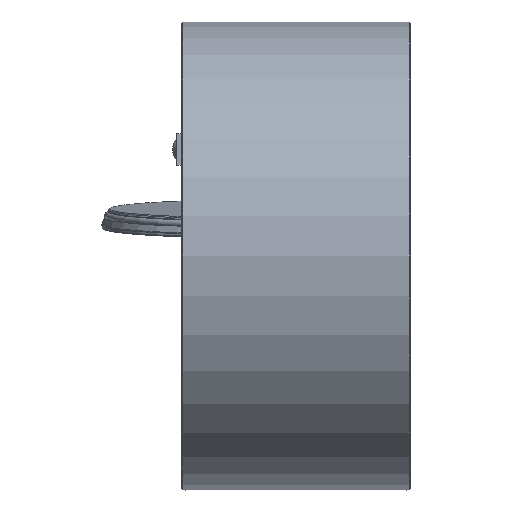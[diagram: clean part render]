
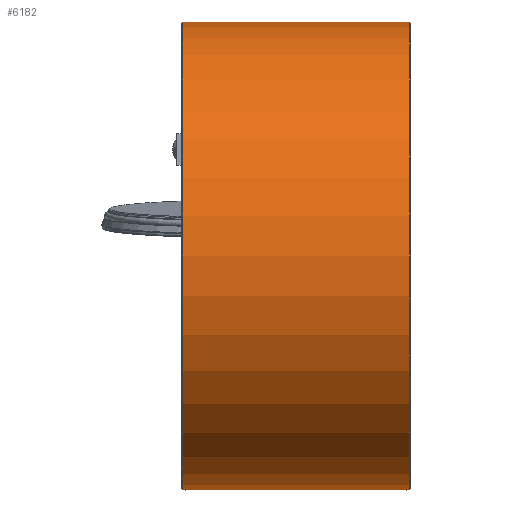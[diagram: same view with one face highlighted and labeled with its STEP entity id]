
A CAD part, left-side view. The second image highlights one B-rep face of the part: STEP entity #6182.
In plain terms, the highlighted cylindrical face has radius 112.5 mm (diameter 225 mm), a full revolution.
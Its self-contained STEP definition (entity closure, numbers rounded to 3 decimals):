
#4961=CYLINDRICAL_SURFACE('',#23359,112.5);
#6182=ADVANCED_FACE('',(#8863,#8864,#8865),#4961,.T.);
#7894=CIRCLE('',#23312,112.5);
#7910=CIRCLE('',#23330,112.5);
#7927=CIRCLE('',#23351,112.5);
#7928=CIRCLE('',#23352,112.5);
#7929=CIRCLE('',#23353,112.5);
#7930=CIRCLE('',#23354,112.5);
#7931=CIRCLE('',#23355,112.5);
#7932=CIRCLE('',#23356,112.5);
#7933=CIRCLE('',#23357,112.5);
#7934=CIRCLE('',#23358,112.5);
#8863=FACE_BOUND('',#10198,.T.);
#8864=FACE_BOUND('',#10199,.T.);
#8865=FACE_BOUND('',#10200,.T.);
#10198=EDGE_LOOP('',(#12775,#12776,#12777,#12778,#12779,#12780,#12781,#12782));
#10199=EDGE_LOOP('',(#12783,#12784,#12785,#12786,#12787,#12788,#12789,#12790));
#10200=EDGE_LOOP('',(#12791,#12792,#12793,#12794));
#12775=ORIENTED_EDGE('',*,*,#18592,.T.);
#12776=ORIENTED_EDGE('',*,*,#18549,.F.);
#12777=ORIENTED_EDGE('',*,*,#18593,.F.);
#12778=ORIENTED_EDGE('',*,*,#18594,.F.);
#12779=ORIENTED_EDGE('',*,*,#18595,.T.);
#12780=ORIENTED_EDGE('',*,*,#18596,.F.);
#12781=ORIENTED_EDGE('',*,*,#18597,.F.);
#12782=ORIENTED_EDGE('',*,*,#18598,.F.);
#12783=ORIENTED_EDGE('',*,*,#18599,.F.);
#12784=ORIENTED_EDGE('',*,*,#18569,.T.);
#12785=ORIENTED_EDGE('',*,*,#18600,.T.);
#12786=ORIENTED_EDGE('',*,*,#18601,.F.);
#12787=ORIENTED_EDGE('',*,*,#18602,.T.);
#12788=ORIENTED_EDGE('',*,*,#18603,.T.);
#12789=ORIENTED_EDGE('',*,*,#18604,.F.);
#12790=ORIENTED_EDGE('',*,*,#18605,.T.);
#12791=ORIENTED_EDGE('',*,*,#18606,.F.);
#12792=ORIENTED_EDGE('',*,*,#18607,.F.);
#12793=ORIENTED_EDGE('',*,*,#18608,.F.);
#12794=ORIENTED_EDGE('',*,*,#18609,.F.);
#16608=VERTEX_POINT('',#32112);
#16609=VERTEX_POINT('',#32117);
#16627=VERTEX_POINT('',#32158);
#16629=VERTEX_POINT('',#32165);
#16650=VERTEX_POINT('',#32220);
#16651=VERTEX_POINT('',#32222);
#16652=VERTEX_POINT('',#32224);
#16653=VERTEX_POINT('',#32226);
#16654=VERTEX_POINT('',#32228);
#16655=VERTEX_POINT('',#32230);
#16656=VERTEX_POINT('',#32233);
#16657=VERTEX_POINT('',#32235);
#16658=VERTEX_POINT('',#32237);
#16659=VERTEX_POINT('',#32239);
#16660=VERTEX_POINT('',#32241);
#16661=VERTEX_POINT('',#32243);
#16662=VERTEX_POINT('',#32246);
#16663=VERTEX_POINT('',#32247);
#16664=VERTEX_POINT('',#32249);
#16665=VERTEX_POINT('',#32251);
#18549=EDGE_CURVE('',#16609,#16608,#7894,.T.);
#18569=EDGE_CURVE('',#16627,#16629,#7910,.T.);
#18592=EDGE_CURVE('',#16650,#16608,#20638,.T.);
#18593=EDGE_CURVE('',#16651,#16609,#20639,.T.);
#18594=EDGE_CURVE('',#16652,#16651,#7927,.T.);
#18595=EDGE_CURVE('',#16652,#16653,#20640,.T.);
#18596=EDGE_CURVE('',#16654,#16653,#7928,.T.);
#18597=EDGE_CURVE('',#16655,#16654,#20641,.T.);
#18598=EDGE_CURVE('',#16650,#16655,#7929,.T.);
#18599=EDGE_CURVE('',#16627,#16656,#20642,.T.);
#18600=EDGE_CURVE('',#16629,#16657,#20643,.T.);
#18601=EDGE_CURVE('',#16658,#16657,#7930,.T.);
#18602=EDGE_CURVE('',#16658,#16659,#20644,.T.);
#18603=EDGE_CURVE('',#16659,#16660,#7931,.T.);
#18604=EDGE_CURVE('',#16661,#16660,#20645,.T.);
#18605=EDGE_CURVE('',#16661,#16656,#7932,.T.);
#18606=EDGE_CURVE('',#16662,#16663,#7933,.T.);
#18607=EDGE_CURVE('',#16664,#16662,#20646,.T.);
#18608=EDGE_CURVE('',#16665,#16664,#7934,.T.);
#18609=EDGE_CURVE('',#16663,#16665,#20647,.T.);
#20638=LINE('',#32219,#21918);
#20639=LINE('',#32221,#21919);
#20640=LINE('',#32225,#21920);
#20641=LINE('',#32229,#21921);
#20642=LINE('',#32232,#21922);
#20643=LINE('',#32234,#21923);
#20644=LINE('',#32238,#21924);
#20645=LINE('',#32242,#21925);
#20646=LINE('',#32248,#21926);
#20647=LINE('',#32252,#21927);
#21918=VECTOR('',#26391,1.);
#21919=VECTOR('',#26392,1.);
#21920=VECTOR('',#26395,1.);
#21921=VECTOR('',#26398,1.);
#21922=VECTOR('',#26401,1.);
#21923=VECTOR('',#26402,1.);
#21924=VECTOR('',#26405,1.);
#21925=VECTOR('',#26408,1.);
#21926=VECTOR('',#26413,1.);
#21927=VECTOR('',#26416,1.);
#23312=AXIS2_PLACEMENT_3D('',#32118,#26307,#26308);
#23330=AXIS2_PLACEMENT_3D('',#32166,#26345,#26346);
#23351=AXIS2_PLACEMENT_3D('',#32223,#26393,#26394);
#23352=AXIS2_PLACEMENT_3D('',#32227,#26396,#26397);
#23353=AXIS2_PLACEMENT_3D('',#32231,#26399,#26400);
#23354=AXIS2_PLACEMENT_3D('',#32236,#26403,#26404);
#23355=AXIS2_PLACEMENT_3D('',#32240,#26406,#26407);
#23356=AXIS2_PLACEMENT_3D('',#32244,#26409,#26410);
#23357=AXIS2_PLACEMENT_3D('',#32245,#26411,#26412);
#23358=AXIS2_PLACEMENT_3D('',#32250,#26414,#26415);
#23359=AXIS2_PLACEMENT_3D('',#32253,#26417,#26418);
#26307=DIRECTION('',(-1.,0.,0.));
#26308=DIRECTION('',(0.,0.,1.));
#26345=DIRECTION('',(-1.,0.,0.));
#26346=DIRECTION('',(0.,0.,1.));
#26391=DIRECTION('',(-1.,0.,0.));
#26392=DIRECTION('',(-1.,0.,0.));
#26393=DIRECTION('',(-1.,0.,0.));
#26394=DIRECTION('',(0.,0.,1.));
#26395=DIRECTION('',(-1.,0.,0.));
#26396=DIRECTION('',(-1.,0.,0.));
#26397=DIRECTION('',(0.,0.,1.));
#26398=DIRECTION('',(-1.,0.,0.));
#26399=DIRECTION('',(-1.,0.,0.));
#26400=DIRECTION('',(0.,0.,-1.));
#26401=DIRECTION('',(-1.,0.,0.));
#26402=DIRECTION('',(-1.,0.,0.));
#26403=DIRECTION('',(1.,0.,0.));
#26404=DIRECTION('',(0.,0.,1.));
#26405=DIRECTION('',(1.,0.,0.));
#26406=DIRECTION('',(-1.,0.,0.));
#26407=DIRECTION('',(0.,0.,1.));
#26408=DIRECTION('',(1.,0.,0.));
#26409=DIRECTION('',(-1.,0.,0.));
#26410=DIRECTION('',(0.,0.,-1.));
#26411=DIRECTION('',(-1.,0.,0.));
#26412=DIRECTION('',(0.,0.,-1.));
#26413=DIRECTION('',(1.,0.,0.));
#26414=DIRECTION('',(1.,0.,0.));
#26415=DIRECTION('',(0.,0.,1.));
#26416=DIRECTION('',(-1.,0.,0.));
#26417=DIRECTION('',(-1.,0.,0.));
#26418=DIRECTION('',(0.,0.,1.));
#32112=CARTESIAN_POINT('',(0.5,3.,-112.46));
#32117=CARTESIAN_POINT('',(0.5,3.,112.46));
#32118=CARTESIAN_POINT('',(0.5,0.,0.));
#32158=CARTESIAN_POINT('',(109.5,-3.,-112.46));
#32165=CARTESIAN_POINT('',(109.5,-3.,112.46));
#32166=CARTESIAN_POINT('',(109.5,0.,0.));
#32219=CARTESIAN_POINT('',(2.,3.,-112.46));
#32220=CARTESIAN_POINT('',(2.,3.,-112.46));
#32221=CARTESIAN_POINT('',(2.,3.,112.46));
#32222=CARTESIAN_POINT('',(2.,3.,112.46));
#32223=CARTESIAN_POINT('',(2.,0.,0.));
#32224=CARTESIAN_POINT('',(2.,-3.,112.46));
#32225=CARTESIAN_POINT('',(2.,-3.,112.46));
#32226=CARTESIAN_POINT('',(0.5,-3.,112.46));
#32227=CARTESIAN_POINT('',(0.5,0.,0.));
#32228=CARTESIAN_POINT('',(0.5,-3.,-112.46));
#32229=CARTESIAN_POINT('',(2.,-3.,-112.46));
#32230=CARTESIAN_POINT('',(2.,-3.,-112.46));
#32231=CARTESIAN_POINT('',(2.,0.,0.));
#32232=CARTESIAN_POINT('',(0.,-3.,-112.46));
#32233=CARTESIAN_POINT('',(108.,-3.,-112.46));
#32234=CARTESIAN_POINT('',(0.,-3.,112.46));
#32235=CARTESIAN_POINT('',(108.,-3.,112.46));
#32236=CARTESIAN_POINT('',(108.,0.,0.));
#32237=CARTESIAN_POINT('',(108.,3.,112.46));
#32238=CARTESIAN_POINT('',(0.,3.,112.46));
#32239=CARTESIAN_POINT('',(109.5,3.,112.46));
#32240=CARTESIAN_POINT('',(109.5,0.,0.));
#32241=CARTESIAN_POINT('',(109.5,3.,-112.46));
#32242=CARTESIAN_POINT('',(0.,3.,-112.46));
#32243=CARTESIAN_POINT('',(108.,3.,-112.46));
#32244=CARTESIAN_POINT('',(108.,0.,0.));
#32245=CARTESIAN_POINT('',(99.038,0.,0.));
#32246=CARTESIAN_POINT('',(99.038,98.,55.247));
#32247=CARTESIAN_POINT('',(99.038,98.,-55.247));
#32248=CARTESIAN_POINT('',(0.,98.,55.247));
#32249=CARTESIAN_POINT('',(50.963,98.,55.247));
#32250=CARTESIAN_POINT('',(50.963,0.,0.));
#32251=CARTESIAN_POINT('',(50.963,98.,-55.247));
#32252=CARTESIAN_POINT('',(0.,98.,-55.247));
#32253=CARTESIAN_POINT('',(0.,0.,0.));
